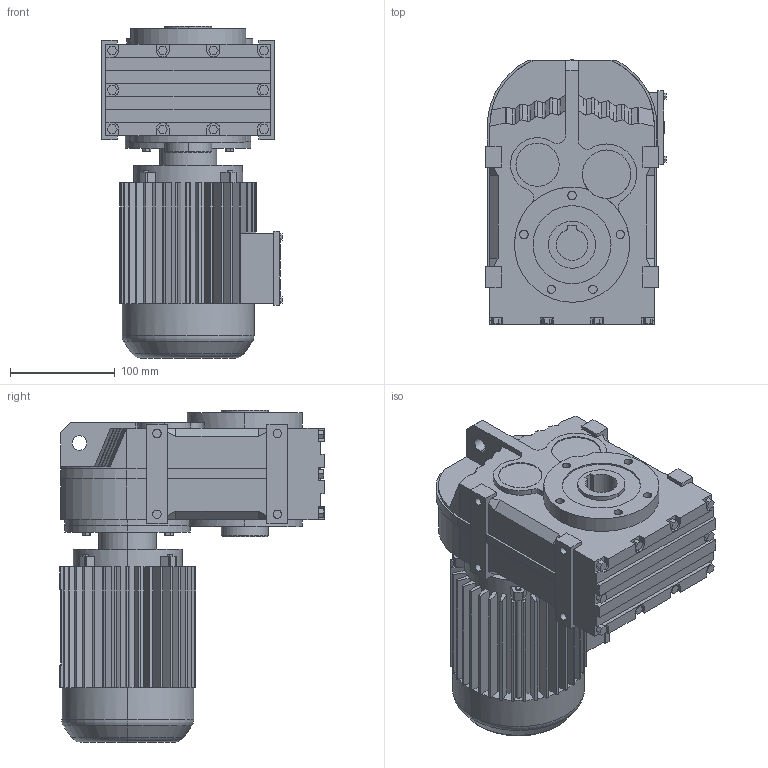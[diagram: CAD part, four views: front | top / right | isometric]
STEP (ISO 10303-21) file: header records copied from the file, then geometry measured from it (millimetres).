
FILE_DESCRIPTION(('Open CASCADE Model'),'2;1');
FILE_NAME('Open CASCADE Shape Model','2018-09-11T15:25:58',('Author'),( 'Open CASCADE'),'Open CASCADE STEP processor 6.3','Open CASCADE 6.3' ,'Unknown');
FILE_SCHEMA(('AUTOMOTIVE_DESIGN_CC2 { 1 2 10303 214 -1 1 5 4 }'));
Length unit declared in the file: millimetre
Products named in the file (4): 7_FA37-Y63S; FA27‵157_37.step; 萇儂_120.step; す瑩諾陑粣F_37.step
Assembly tree (3 placements, depth 2):
  7_FA37-Y63S
    FA27‵157_37.step
    萇儂_120.step
    す瑩諾陑粣F_37.step
Bounding box: 172.5 x 253 x 317 mm (x, y, z)
Volume: 5547607.2 mm3; surface area: 432741.9 mm2
Topology: 3 solids, 3 shells, 772 faces, 2045 edges, 1330 vertices
Faces by surface type: plane 563, cylinder 187, bspline 16, torus 4, cone 2
Entity records: 51650 total; most frequent: CARTESIAN_POINT 12305, DIRECTION 6909, ORIENTED_EDGE 4090, PCURVE 4090, DEFINITIONAL_REPRESENTATION 4090, LINE 3935, VECTOR 3935, EDGE_CURVE 2045
